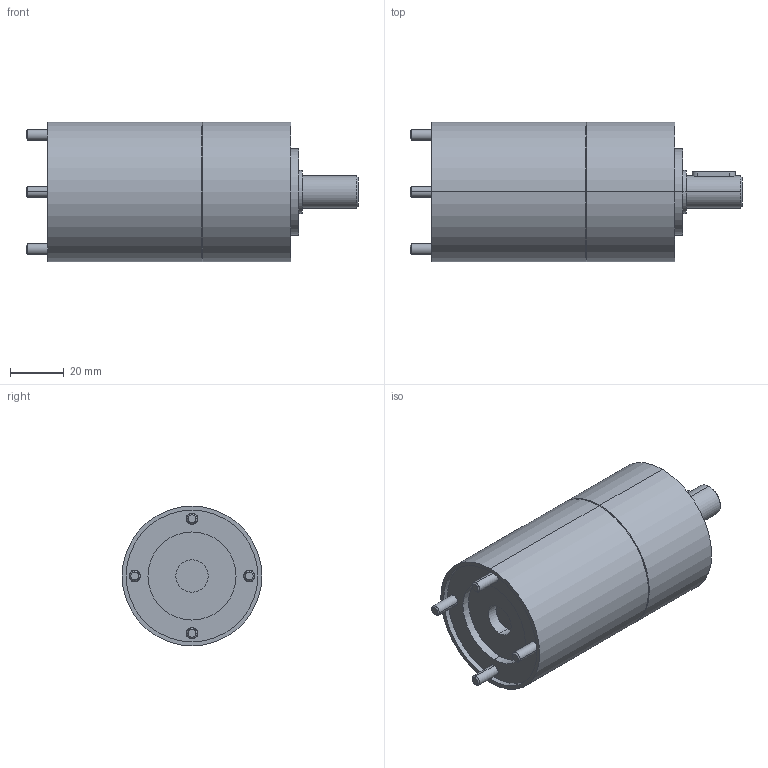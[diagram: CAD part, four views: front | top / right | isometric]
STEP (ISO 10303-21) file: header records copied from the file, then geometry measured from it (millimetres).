
FILE_DESCRIPTION (( 'STEP AP214' ), '1' );
FILE_NAME ('PM50-4stufig.STEP', '2012-09-19T12:47:13', ( ' ' ), ( '' ), 'SwSTEP 2.0', 'SolidWorks 2010', '' );
FILE_SCHEMA (( 'AUTOMOTIVE_DESIGN' ));
Length unit declared in the file: millimetre
Products named in the file (1): PM50-4stufig
Bounding box: 123.5 x 52 x 52 mm (x, y, z)
Volume: 189148.4 mm3; surface area: 32008.4 mm2
Topology: 5 solids, 5 shells, 162 faces, 342 edges, 209 vertices
Faces by surface type: cylinder 61, plane 60, cone 33, torus 8
Entity records: 5498 total; most frequent: DIRECTION 812, CARTESIAN_POINT 780, ORIENTED_EDGE 666, EDGE_CURVE 333, AXIS2_PLACEMENT_3D 319, VERTEX_POINT 209, EDGE_LOOP 190, VECTOR 174
